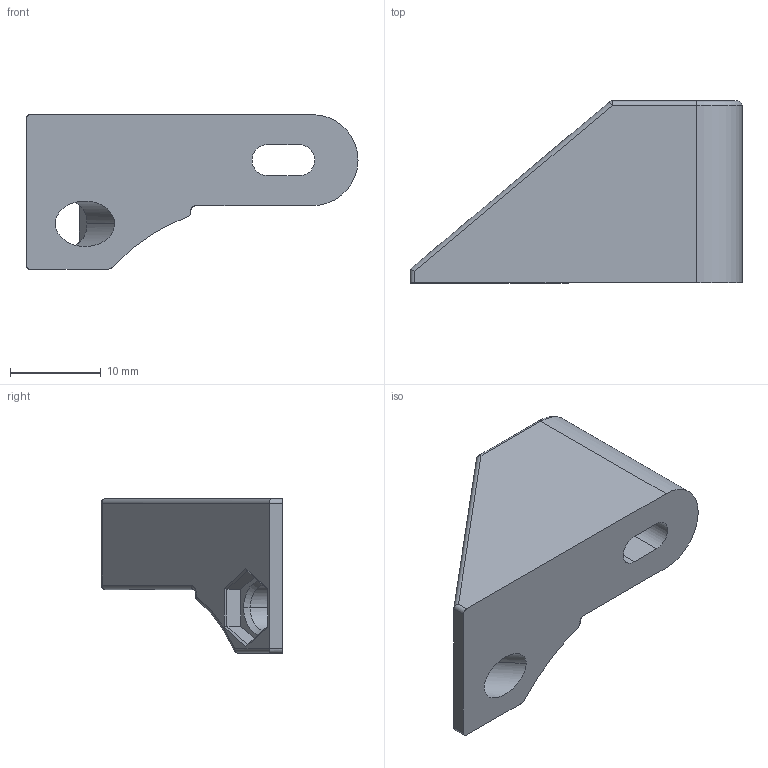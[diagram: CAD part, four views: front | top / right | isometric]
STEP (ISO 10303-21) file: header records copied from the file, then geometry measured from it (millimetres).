
FILE_DESCRIPTION((''),'2;1');
FILE_NAME('ART1FANSUPPORT_02','2022-08-24T09:18:50',('domen.bizjak'),('Audax d.o.o.'),'CREO PARAMETRIC BY PTC INC, 2021184','CREO PARAMETRIC BY PTC INC, 2021184','');
FILE_SCHEMA(('AP242_MANAGED_MODEL_BASED_3D_ENGINEERING_MIM_LF { 1 0 10303 442 1 1 4 }'));
Length unit declared in the file: millimetre
Products named in the file (1): ART1FANSUPPORT_02
Bounding box: 36.5 x 20 x 17 mm (x, y, z)
Volume: 4686 mm3; surface area: 2549.9 mm2
Topology: 1 solids, 1 shells, 59 faces, 170 edges, 120 vertices
Faces by surface type: plane 28, cylinder 20, cone 4, sphere 4, torus 3
Entity records: 3004 total; most frequent: CARTESIAN_POINT 382, DIRECTION 354, COLOUR_RGB 320, ORIENTED_EDGE 270, PRESENTATION_STYLE_ASSIGNMENT 176, STYLED_ITEM 176, CURVE_STYLE 171, EDGE_CURVE 135
